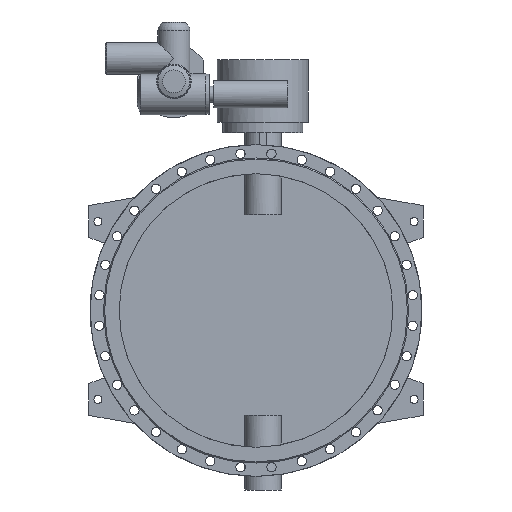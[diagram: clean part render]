
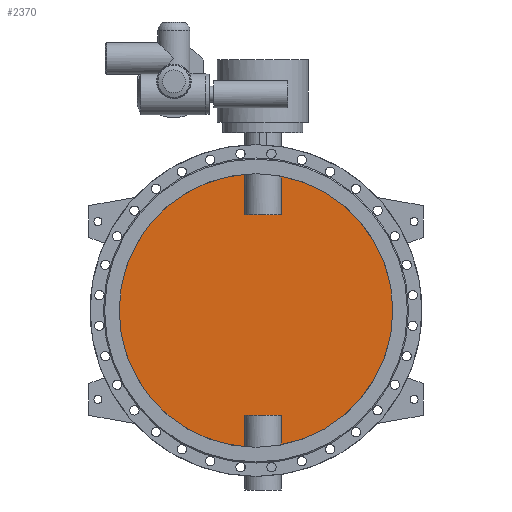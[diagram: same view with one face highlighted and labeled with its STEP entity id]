
A CAD part, front view. The second image highlights one B-rep face of the part: STEP entity #2370.
In plain terms, the highlighted planar face has unit normal (0, -1, 0).
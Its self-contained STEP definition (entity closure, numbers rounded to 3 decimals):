
#2370=ADVANCED_FACE('',(#4845),#4847,.F.);
#4845=FACE_BOUND('',#4846,.T.);
#4846=EDGE_LOOP('',(#5903,#5904,#5905,#5906,#5907,#5908,#5909,#5910));
#4847=PLANE('',#4848);
#4848=AXIS2_PLACEMENT_3D('',#4849,#4850,#4851);
#4849=CARTESIAN_POINT('',(0.,-5.,0.));
#4850=DIRECTION('',(0.,1.,0.));
#4851=DIRECTION('',(1.,0.,0.));
#5903=ORIENTED_EDGE('',*,*,#6433,.T.);
#5904=ORIENTED_EDGE('',*,*,#6438,.T.);
#5905=ORIENTED_EDGE('',*,*,#6439,.T.);
#5906=ORIENTED_EDGE('',*,*,#6440,.T.);
#5907=ORIENTED_EDGE('',*,*,#6435,.T.);
#5908=ORIENTED_EDGE('',*,*,#6441,.T.);
#5909=ORIENTED_EDGE('',*,*,#6442,.T.);
#5910=ORIENTED_EDGE('',*,*,#6443,.T.);
#6433=EDGE_CURVE('',#7375,#7376,#7377,.F.);
#6435=EDGE_CURVE('',#7380,#7378,#7381,.F.);
#6438=EDGE_CURVE('',#7376,#7385,#7386,.T.);
#6439=EDGE_CURVE('',#7385,#7387,#7388,.F.);
#6440=EDGE_CURVE('',#7387,#7380,#7389,.F.);
#6441=EDGE_CURVE('',#7378,#7390,#7391,.F.);
#6442=EDGE_CURVE('',#7390,#7392,#7393,.F.);
#6443=EDGE_CURVE('',#7392,#7375,#7394,.T.);
#7375=VERTEX_POINT('',#11470);
#7376=VERTEX_POINT('',#11471);
#7377=CIRCLE('',#11472,600.);
#7378=VERTEX_POINT('',#11476);
#7380=VERTEX_POINT('',#11570);
#7381=CIRCLE('',#11571,600.);
#7385=VERTEX_POINT('',#11674);
#7386=LINE('',#11675,#11676);
#7387=VERTEX_POINT('',#11678);
#7388=LINE('',#11679,#11680);
#7389=LINE('',#11682,#11683);
#7390=VERTEX_POINT('',#11685);
#7391=LINE('',#11686,#11687);
#7392=VERTEX_POINT('',#11689);
#7393=LINE('',#11690,#11691);
#7394=LINE('',#11693,#11694);
#11470=CARTESIAN_POINT('',(109.844,-5.,-589.86));
#11471=CARTESIAN_POINT('',(109.844,-5.,589.86));
#11472=AXIS2_PLACEMENT_3D('',#11473,#11474,#11475);
#11473=CARTESIAN_POINT('',(0.,-5.,0.));
#11474=DIRECTION('',(0.,1.,0.));
#11475=DIRECTION('',(0.183,0.,0.983));
#11476=CARTESIAN_POINT('',(-49.844,-5.,-597.926));
#11570=CARTESIAN_POINT('',(-49.844,-5.,597.926));
#11571=AXIS2_PLACEMENT_3D('',#11572,#11573,#11574);
#11572=CARTESIAN_POINT('',(0.,-5.,0.));
#11573=DIRECTION('',(0.,1.,0.));
#11574=DIRECTION('',(-0.083,0.,-0.997));
#11674=CARTESIAN_POINT('',(109.844,-5.,420.));
#11675=CARTESIAN_POINT('',(109.844,-5.,589.86));
#11676=VECTOR('',#11677,1.);
#11677=DIRECTION('',(0.,0.,-1.));
#11678=CARTESIAN_POINT('',(-49.844,-5.,420.));
#11679=CARTESIAN_POINT('',(-49.844,-5.,420.));
#11680=VECTOR('',#11681,1.);
#11681=DIRECTION('',(1.,0.,0.));
#11682=CARTESIAN_POINT('',(-49.844,-5.,597.926));
#11683=VECTOR('',#11684,1.);
#11684=DIRECTION('',(0.,0.,-1.));
#11685=CARTESIAN_POINT('',(-49.844,-5.,-460.));
#11686=CARTESIAN_POINT('',(-49.844,-5.,-460.));
#11687=VECTOR('',#11688,1.);
#11688=DIRECTION('',(0.,0.,-1.));
#11689=CARTESIAN_POINT('',(109.844,-5.,-460.));
#11690=CARTESIAN_POINT('',(109.844,-5.,-460.));
#11691=VECTOR('',#11692,1.);
#11692=DIRECTION('',(-1.,0.,0.));
#11693=CARTESIAN_POINT('',(109.844,-5.,-460.));
#11694=VECTOR('',#11695,1.);
#11695=DIRECTION('',(0.,0.,-1.));
